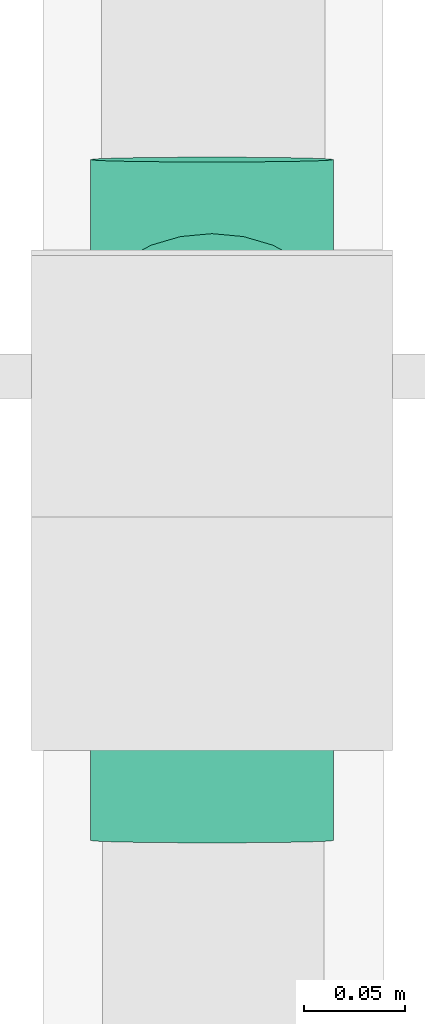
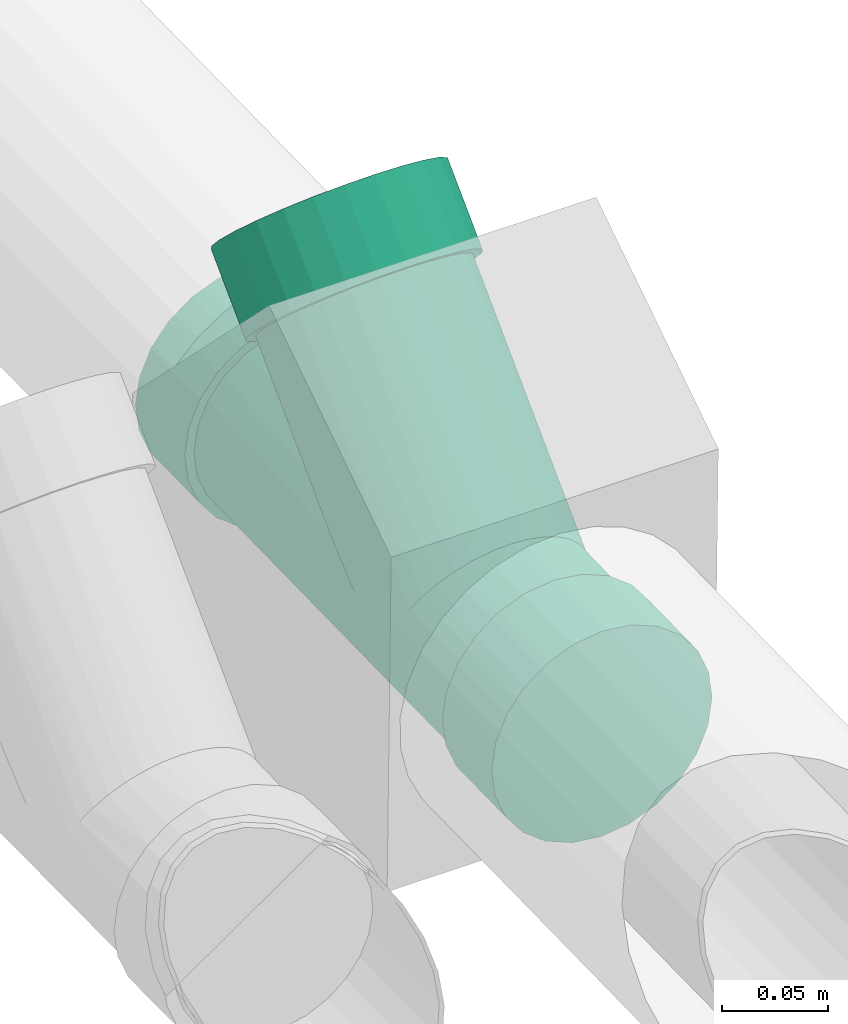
# One storey, part 73 of 78: 1 flow fitting.
"""IFC2X3 building model written with IfcOpenShell, lengths in millimetres."""

from ifc_helpers import new_model, entity, si_unit, converted_unit, derived_unit, direction, frame, origin_with_axes, place, context, subcontext, project, spatial, open_shell, surface_model, source, transform, mapped, type_object, element, save


model = new_model("IFC2X3")

# Units and contexts
model_context = context("Model", 3, precision=0.01, world=frame((0.0, 4.29681676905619e-09, 0.0)), true_north=direction((4.01073788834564e-13, 1.0)))
plan_context = context("Plan", 3, precision=0.01, world=frame((0.0, 4.29681676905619e-09, 0.0)), true_north=direction((4.01073788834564e-13, 1.0)))
body_context = subcontext(model_context, "Body", "Model", "MODEL_VIEW")
ifc_project = project(units=[converted_unit("PLANEANGLEUNIT", "DEGREE", entity("IfcPositiveLengthMeasure", 0.0174532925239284), si_unit("PLANEANGLEUNIT", "RADIAN"), dimensions=[0, 0, 0, 0, 0, 0, 0]), si_unit("AREAUNIT", "SQUARE_METRE"), si_unit("LENGTHUNIT", "METRE", prefix="MILLI"), si_unit("MASSUNIT", "GRAM", prefix="KILO"), si_unit("POWERUNIT", "WATT"), si_unit("PRESSUREUNIT", "PASCAL"), si_unit("FORCEUNIT", "NEWTON", prefix="KILO"), si_unit("ELECTRICVOLTAGEUNIT", "VOLT"), si_unit("ELECTRICCURRENTUNIT", "AMPERE"), si_unit("THERMODYNAMICTEMPERATUREUNIT", "DEGREE_CELSIUS"), si_unit("TIMEUNIT", "SECOND"), si_unit("VOLUMEUNIT", "CUBIC_METRE"), derived_unit("LINEARVELOCITYUNIT", [(si_unit("LENGTHUNIT", "METRE"), 1), (si_unit("TIMEUNIT", "SECOND"), -1)]), derived_unit("VOLUMETRICFLOWRATEUNIT", [(si_unit("VOLUMEUNIT", "CUBIC_METRE"), 1), (si_unit("TIMEUNIT", "SECOND"), -1)]), derived_unit("THERMALTRANSMITTANCEUNIT", [(si_unit("POWERUNIT", "WATT"), 1), (si_unit("THERMODYNAMICTEMPERATUREUNIT", "KELVIN"), -1), (si_unit("AREAUNIT", "SQUARE_METRE"), -1)]), derived_unit("SOUNDPRESSUREUNIT", [(si_unit("PRESSUREUNIT", "PASCAL"), 1)])], contexts=[model_context, plan_context])

# Site, building, storey
site_placement = place(None, frame((0.0, -4.29681676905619e-09, 0.0), z_axis=(0.0, 0.0, 1.0), x_axis=(1.0, 0.0, 0.0)))
site = spatial("IfcSite", under=ifc_project, at=site_placement, Name="ENGM", CompositionType="ELEMENT")
building_placement = place(site_placement, frame((0.0, 4.29681676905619e-09, 0.0), z_axis=(0.0, 0.0, 1.0), x_axis=(1.0, 0.0, 0.0)))
building = spatial("IfcBuilding", under=site, at=building_placement, Name="TH", CompositionType="ELEMENT")
storey_placement = place(building_placement, frame((0.0, 0.0, 205200.0), z_axis=(0.0, 0.0, 1.0), x_axis=(1.0, 0.0, 0.0)))
storey = spatial("IfcBuildingStorey", under=building, at=storey_placement, Name="Nivå D + 1,2 m", CompositionType="ELEMENT", Elevation=205200.0)

# Flow fitting
pipe_fitting_type = type_object("IfcPipeFittingType", Name="magi_sewer_tee_wye_NOR", PredefinedType="JUNCTION")
shared_shape = source(origin_with_axes(), body_context, "Body", "SurfaceModel", [
    surface_model("IfcShellBasedSurfaceModel", [(226.15751, 30.0, -51.96152), (226.15751, -42.42641, -42.42641), (226.15751, 15.52914, -57.95555), (226.15751, 51.96152, -30.0), (226.15751, 42.42641, -42.42641), (226.15751, 57.95555, -15.52914), (226.15751, 60.0, 0.0), (226.15751, 0.0, -60.0), (226.15751, -30.0, -51.96152), (226.15751, -15.52914, -57.95555), (226.15751, 57.95555, 15.52914), (226.15751, -51.96152, -30.0), (226.15751, -60.0, 0.0), (226.15751, -57.95555, -15.52914), (226.15751, 51.96152, 30.0), (226.15751, 42.42641, 42.42641), (226.15751, 15.52914, 57.95555), (226.15751, 0.0, 60.0), (226.15751, 30.0, 51.96152), (226.15751, -51.96152, 30.0), (226.15751, -57.95555, 15.52914), (226.15751, -30.0, 51.96152), (226.15751, -42.42641, 42.42641), (226.15751, -15.52914, 57.95555), (179.65751, 42.42641, 42.42641), (179.65751, 0.0, 60.0), (179.65751, 15.52914, 57.95555), (179.65751, 30.0, 51.96152), (179.65751, 51.96152, 30.0), (179.65751, 57.95555, 15.52914), (179.65751, -60.0, 0.0), (179.65751, -30.0, 51.96152), (179.65751, -51.96152, 30.0), (179.65751, -42.42641, 42.42641), (179.65751, -15.52914, 57.95555), (179.65751, -57.95555, 15.52914), (179.65751, -51.96152, -30.0), (179.65751, -42.42641, -42.42641), (179.65751, 57.95555, -15.52914), (179.65751, 42.42641, -42.42641), (179.65751, 51.96152, -30.0), (179.65751, 30.0, -51.96152), (179.65751, 15.52914, -57.95555), (179.65751, -57.95555, -15.52914), (179.65751, -30.0, -51.96152), (179.65751, 0.0, -60.0), (179.65751, -15.52914, -57.95555), (179.65751, 60.0, 0.0), (137.33687, -90.34827, -51.96152), (127.31108, -100.78327, -57.95555), (116.55208, -111.98141, -60.0), (152.55239, -74.51171, -30.0), (76.39896, -153.77343, -15.52914), (145.94621, -81.38753, -42.42641), (80.55178, -149.45112, 30.0), (95.7673, -133.61456, -51.96152), (87.15796, -142.57529, -42.42641), (105.79309, -123.17955, -57.95555), (80.55178, -149.45112, -30.0), (74.98251, -155.2477, 0.0), (76.39896, -153.77343, 15.52914), (156.70521, -70.18939, -15.52914), (158.12165, -68.71513, 0.0), (152.55239, -74.51171, 30.0), (156.70521, -70.18939, 15.52914), (127.31108, -100.78327, 57.95555), (137.33687, -90.34827, 51.96152), (145.94621, -81.38753, 42.42641), (87.15796, -142.57529, 42.42641), (95.7673, -133.61456, 51.96152), (105.79309, -123.17955, 57.95555), (116.55208, -111.98141, 60.0), (150.08345, -144.19782, -60.0), (160.84245, -132.99969, -57.95555), (170.86824, -122.56468, -51.96152), (109.93034, -185.98985, -15.52914), (114.08315, -181.66753, 30.0), (186.08375, -106.72812, -30.0), (179.47758, -113.60394, -42.42641), (139.32445, -155.39597, -57.95555), (120.68933, -174.79171, -42.42641), (129.29867, -165.83096, -51.96152), (114.08315, -181.66753, -30.0), (109.93034, -185.98985, 15.52914), (108.51389, -187.4641, 0.0), (190.23657, -102.4058, -15.52914), (191.65302, -100.93154, 0.0), (190.23657, -102.4058, 15.52914), (170.86824, -122.56468, 51.96152), (186.08375, -106.72812, 30.0), (160.84245, -132.99969, 57.95555), (179.47758, -113.60394, 42.42641), (129.29867, -165.83096, 51.96152), (120.68933, -174.79171, 42.42641), (150.08345, -144.19782, 60.0), (139.32445, -155.39597, 57.95555), (-109.60544, -30.0, -51.96152), (-109.60544, 42.42641, -42.42641), (-109.60544, -15.52914, -57.95555), (-109.60544, -51.96152, -30.0), (-109.60544, -42.42641, -42.42641), (-109.60544, -57.95555, -15.52914), (-109.60544, -60.0, 0.0), (-109.60544, 0.0, -60.0), (-109.60544, 30.0, -51.96152), (-109.60544, 15.52914, -57.95555), (-109.60544, -57.95555, 15.52914), (-109.60544, 51.96152, -30.0), (-109.60544, 60.0, 0.0), (-109.60544, 57.95555, -15.52914), (-109.60544, -51.96152, 30.0), (-109.60544, -42.42641, 42.42641), (-109.60544, -15.52914, 57.95555), (-109.60544, 0.0, 60.0), (-109.60544, -30.0, 51.96152), (-109.60544, 51.96152, 30.0), (-109.60544, 57.95555, 15.52914), (-109.60544, 30.0, 51.96152), (-109.60544, 42.42641, 42.42641), (-109.60544, 15.52914, 57.95555), (-63.10544, -42.42641, 42.42641), (-63.10544, 0.0, 60.0), (-63.10544, -15.52914, 57.95555), (-63.10544, -30.0, 51.96152), (-63.10544, -51.96152, 30.0), (-63.10544, -57.95555, 15.52914), (-63.10544, 60.0, 0.0), (-63.10544, 30.0, 51.96152), (-63.10544, 51.96152, 30.0), (-63.10544, 42.42641, 42.42641), (-63.10544, 15.52914, 57.95555), (-63.10544, 57.95555, 15.52914), (-63.10544, 51.96152, -30.0), (-63.10544, 42.42641, -42.42641), (-63.10544, -57.95555, -15.52914), (-63.10544, -42.42641, -42.42641), (-63.10544, -51.96152, -30.0), (-63.10544, -30.0, -51.96152), (-63.10544, -15.52914, -57.95555), (-63.10544, 57.95555, -15.52914), (-63.10544, 30.0, -51.96152), (-63.10544, 0.0, -60.0), (-63.10544, 15.52914, -57.95555), (-63.10544, -60.0, 0.0), (179.65751, 27.5, -47.63139), (179.65751, 0.0, -55.0), (179.65751, 14.23505, -53.12592), (179.65751, 38.89087, -38.89087), (179.65751, -27.5, -47.63139), (179.65751, 47.63139, -27.5), (179.65751, 53.12592, -14.23505), (179.65751, 55.0, 0.0), (179.65751, -14.23505, -53.12592), (179.65751, -47.63139, -27.5), (179.65751, -38.89087, -38.89087), (179.65751, -55.0, 0.0), (179.65751, -53.12592, -14.23505), (179.65751, 53.12592, 14.23505), (179.65751, 47.63139, 27.5), (179.65751, 27.5, 47.63139), (179.65751, 38.89087, 38.89087), (179.65751, 14.23505, 53.12592), (179.65751, 0.0, 55.0), (179.65751, -47.63139, 27.5), (179.65751, -53.12592, 14.23505), (179.65751, -27.5, 47.63139), (179.65751, -38.89087, 38.89087), (179.65751, -14.23505, 53.12592), (-63.10544, 0.0, 55.0), (-63.10544, 14.23505, 53.12592), (-63.10544, 27.5, 47.63139), (-63.10544, -47.63139, 27.5), (-63.10544, 27.5, -47.63139), (-63.10544, 47.63139, 27.5), (-63.10544, 38.89087, 38.89087), (-63.10544, -27.5, 47.63139), (-63.10544, -14.23505, 53.12592), (-63.10544, -38.89087, 38.89087), (-63.10544, -55.0, 0.0), (-63.10544, -53.12592, 14.23505), (-63.10544, -47.63139, -27.5), (-63.10544, 53.12592, -14.23505), (-63.10544, 53.12592, 14.23505), (-63.10544, 47.63139, -27.5), (-63.10544, -27.5, -47.63139), (-63.10544, 38.89087, -38.89087), (-63.10544, 0.0, -55.0), (-63.10544, 14.23505, -53.12592), (-63.10544, -38.89087, -38.89087), (-63.10544, -53.12592, -14.23505), (-63.10544, -14.23505, -53.12592), (-63.10544, 55.0, 0.0), (-21.2417, -52.7682, -14.6956), (-63.10544, -53.59444, -10.67629), (-63.10544, -20.86752, -50.37866), (-7.32376, -18.19353, -51.90371), (-9.04063, -22.45856, -49.98751), (-63.10544, -54.53148, -3.55876), (-63.10544, -54.06296, -7.11752), (-21.95849, -54.54883, -4.96092), (-21.77687, -54.09766, -9.92184), (-19.84491, -49.29834, -23.88679), (-63.10544, -49.00503, -24.18376), (-18.9833, -47.15793, -28.30423), (-16.68691, -41.45328, -36.14727), (-63.10544, -43.26114, -33.19544), (-63.10544, -33.19544, -43.26114), (-10.75751, -26.7236, -48.07129), (-3.70691, -9.20863, -54.22362), (-63.10544, -7.11752, -54.06296), (-17.8351, -44.30561, -32.22575), (-15.2993, -38.00623, -39.46676), (133.90353, -53.90251, -7.6914), (179.65751, -54.06296, -7.11752), (-13.9117, -34.55917, -42.78626), (-20.70653, -51.43874, -19.46936), (-63.10544, -50.37866, -20.86752), (119.67629, -48.17537, -26.53552), (179.65751, -50.37866, -20.86752), (131.17716, -52.80501, -15.3828), (136.6299, -55.0, 0.0), (106.12276, -42.71943, -34.64174), (179.65751, -43.26114, -33.19544), (-22.1401, -55.0, 0.0), (76.82477, -30.92561, -45.48194), (61.68155, -24.82974, -49.07631), (91.70126, -36.9141, -40.77192), (125.42672, -50.49019, -20.95916), (0.0, 0.0, -55.0), (-5.51533, -13.70108, -53.06367), (30.96629, -12.4654, -53.56878), (15.49696, -6.23826, -54.64507), (46.37603, -18.66855, -51.73476), (-17.8351, -44.30561, 32.22575), (-63.10544, -43.26114, 33.19544), (-19.84491, -49.29834, 23.88679), (-63.10544, -49.00503, 24.18376), (-63.10544, -7.11752, 54.06296), (-3.70691, -9.20863, 54.22362), (0.0, 0.0, 55.0), (-5.51533, -13.70108, 53.06367), (-7.32376, -18.19353, 51.90371), (-63.10544, -20.86752, 50.37866), (-10.75751, -26.7236, 48.07129), (-9.04063, -22.45856, 49.98751), (119.67629, -48.17537, 26.53552), (179.65751, -43.26114, 33.19544), (105.68878, -42.54473, 33.65372), (-21.95849, -54.54883, 4.96092), (-63.10544, -54.06296, 7.11752), (-63.10544, -54.53148, 3.55876), (-63.10544, -50.37866, 20.86752), (-20.70653, -51.43874, 19.46936), (30.96629, -12.4654, 53.56878), (61.68155, -24.82974, 49.07631), (-63.10544, -33.19544, 43.26114), (-13.9117, -34.55917, 42.78626), (-18.9833, -47.15793, 28.30423), (-16.68691, -41.45328, 36.14727), (-15.2993, -38.00623, 39.46676), (-21.2417, -52.7682, 14.6956), (-63.10544, -53.59444, 10.67629), (-21.77687, -54.09766, 9.92184), (91.70126, -36.9141, 40.77192), (128.1531, -51.58769, 13.26776), (149.55235, -77.63419, -27.5), (116.55208, -111.98141, -55.0), (126.41449, -101.71645, -53.12592), (135.6048, -92.15103, -47.63139), (78.44665, -151.64217, 0.0), (143.49669, -83.93702, -38.89087), (135.6048, -92.15103, 47.63139), (106.68967, -122.24637, -53.12592), (89.60747, -140.0258, -38.89087), (97.49936, -131.81179, -47.63139), (79.74506, -150.29076, -14.23505), (83.5518, -146.32863, -27.5), (153.3591, -73.67206, -14.23505), (153.3591, -73.67206, 14.23505), (143.49669, -83.93702, 38.89087), (149.55235, -77.63419, 27.5), (97.49936, -131.81179, 47.63139), (116.55208, -111.98141, 55.0), (126.41449, -101.71645, 53.12592), (79.74506, -150.29076, 14.23505), (89.60747, -140.0258, 38.89087), (83.5518, -146.32863, 27.5), (106.68967, -122.24637, 53.12592), (154.65751, -72.32065, 0.0), (146.52452, -80.7856, 33.19544), (154.00831, -72.99636, -7.11752), (151.45573, -75.65312, -20.86752), (146.52452, -80.7856, -33.19544)], [open_shell([[[0, 1, 2]], [[3, 0, 4]], [[5, 6, 0]], [[5, 0, 3]], [[1, 0, 6]], [[7, 8, 9]], [[8, 7, 1]], [[2, 1, 7]], [[1, 10, 11]], [[11, 12, 13]], [[10, 1, 6]], [[10, 14, 15]], [[12, 10, 15]], [[16, 17, 15]], [[16, 15, 18]], [[19, 15, 17]], [[12, 19, 20]], [[12, 15, 19]], [[19, 21, 22]], [[19, 17, 21]], [[23, 21, 17]], [[10, 12, 11]], [[24, 25, 26]], [[24, 26, 27]], [[24, 28, 29]], [[25, 24, 30]], [[30, 24, 29]], [[31, 32, 33]], [[31, 34, 25]], [[32, 30, 35]], [[31, 25, 32]], [[25, 30, 32]], [[29, 36, 30]], [[37, 29, 38]], [[39, 38, 40]], [[41, 42, 38]], [[41, 38, 39]], [[37, 38, 42]], [[37, 36, 29]], [[43, 30, 36]], [[44, 45, 46]], [[45, 44, 37]], [[45, 37, 42]], [[47, 38, 29]], [[43, 13, 30]], [[36, 11, 43]], [[8, 37, 44]], [[36, 37, 1]], [[9, 44, 46]], [[43, 11, 13]], [[13, 12, 30]], [[9, 8, 44]], [[1, 37, 8]], [[1, 11, 36]], [[7, 9, 46]], [[46, 45, 7]], [[2, 42, 41]], [[39, 0, 41]], [[3, 40, 38]], [[39, 40, 4]], [[5, 38, 47]], [[42, 2, 45]], [[41, 0, 2]], [[45, 2, 7]], [[39, 4, 0]], [[40, 3, 4]], [[5, 3, 38]], [[47, 6, 5]], [[29, 10, 47]], [[28, 14, 29]], [[18, 24, 27]], [[28, 24, 15]], [[16, 27, 26]], [[29, 14, 10]], [[10, 6, 47]], [[18, 27, 16]], [[15, 24, 18]], [[15, 14, 28]], [[16, 25, 17]], [[16, 26, 25]], [[23, 34, 31]], [[33, 21, 31]], [[19, 32, 35]], [[33, 32, 22]], [[20, 35, 30]], [[34, 23, 25]], [[31, 21, 23]], [[25, 23, 17]], [[33, 22, 21]], [[32, 19, 22]], [[20, 19, 35]], [[30, 12, 20]], [[48, 49, 50]], [[51, 48, 50]], [[52, 51, 50]], [[53, 48, 51]], [[51, 52, 54]], [[55, 56, 57]], [[56, 50, 57]], [[58, 52, 56]], [[56, 52, 50]], [[59, 60, 52]], [[61, 51, 62]], [[63, 64, 62]], [[65, 63, 62]], [[63, 65, 66]], [[67, 63, 66]], [[54, 65, 62]], [[68, 69, 54]], [[54, 52, 60]], [[69, 70, 54]], [[71, 54, 70]], [[54, 71, 65]], [[62, 51, 54]], [[72, 73, 74]], [[75, 72, 74]], [[76, 75, 74]], [[77, 74, 78]], [[74, 77, 76]], [[79, 80, 81]], [[79, 72, 80]], [[80, 75, 82]], [[72, 75, 80]], [[75, 83, 84]], [[77, 85, 86]], [[77, 87, 76]], [[88, 87, 89]], [[88, 90, 87]], [[88, 89, 91]], [[76, 87, 90]], [[76, 92, 93]], [[83, 75, 76]], [[92, 94, 95]], [[92, 76, 90]], [[94, 92, 90]], [[87, 77, 86]], [[83, 59, 84]], [[76, 60, 83]], [[68, 93, 92]], [[76, 93, 54]], [[69, 92, 95]], [[76, 54, 60]], [[60, 59, 83]], [[70, 94, 71]], [[70, 69, 95]], [[68, 92, 69]], [[68, 54, 93]], [[94, 70, 95]], [[66, 90, 88]], [[91, 67, 88]], [[64, 89, 87]], [[91, 89, 63]], [[62, 87, 86]], [[90, 65, 71]], [[90, 66, 65]], [[88, 67, 66]], [[91, 63, 67]], [[64, 63, 89]], [[87, 62, 64]], [[90, 71, 94]], [[85, 62, 86]], [[77, 61, 85]], [[53, 78, 74]], [[77, 78, 51]], [[48, 74, 73]], [[77, 51, 61]], [[61, 62, 85]], [[49, 72, 50]], [[49, 48, 73]], [[53, 74, 48]], [[53, 51, 78]], [[72, 49, 73]], [[55, 79, 81]], [[80, 56, 81]], [[52, 82, 75]], [[80, 82, 58]], [[59, 75, 84]], [[57, 50, 79]], [[57, 79, 55]], [[81, 56, 55]], [[80, 58, 56]], [[52, 58, 82]], [[75, 59, 52]], [[79, 50, 72]], [[96, 97, 98]], [[99, 96, 100]], [[101, 102, 96]], [[101, 96, 99]], [[97, 96, 102]], [[103, 104, 105]], [[104, 103, 97]], [[98, 97, 103]], [[97, 106, 107]], [[107, 108, 109]], [[106, 97, 102]], [[106, 110, 111]], [[108, 106, 111]], [[112, 113, 111]], [[112, 111, 114]], [[115, 111, 113]], [[108, 115, 116]], [[108, 111, 115]], [[115, 117, 118]], [[115, 113, 117]], [[119, 117, 113]], [[106, 108, 107]], [[120, 121, 122]], [[120, 122, 123]], [[120, 124, 125]], [[121, 120, 126]], [[126, 120, 125]], [[127, 128, 129]], [[127, 130, 121]], [[128, 126, 131]], [[127, 121, 128]], [[121, 126, 128]], [[125, 132, 126]], [[133, 125, 134]], [[135, 134, 136]], [[137, 138, 134]], [[137, 134, 135]], [[133, 134, 138]], [[133, 132, 125]], [[139, 126, 132]], [[140, 141, 142]], [[141, 140, 133]], [[141, 133, 138]], [[143, 134, 125]], [[139, 109, 126]], [[132, 107, 139]], [[104, 133, 140]], [[132, 133, 97]], [[105, 140, 142]], [[139, 107, 109]], [[109, 108, 126]], [[105, 104, 140]], [[97, 133, 104]], [[97, 107, 132]], [[103, 105, 142]], [[142, 141, 103]], [[98, 138, 137]], [[135, 96, 137]], [[99, 136, 134]], [[135, 136, 100]], [[101, 134, 143]], [[138, 98, 141]], [[137, 96, 98]], [[141, 98, 103]], [[135, 100, 96]], [[136, 99, 100]], [[101, 99, 134]], [[143, 102, 101]], [[125, 106, 143]], [[124, 110, 125]], [[114, 120, 123]], [[124, 120, 111]], [[112, 123, 122]], [[125, 110, 106]], [[106, 102, 143]], [[114, 123, 112]], [[111, 120, 114]], [[111, 110, 124]], [[112, 121, 113]], [[112, 122, 121]], [[119, 130, 127]], [[129, 117, 127]], [[115, 128, 131]], [[129, 128, 118]], [[116, 131, 126]], [[130, 119, 121]], [[127, 117, 119]], [[121, 119, 113]], [[129, 118, 117]], [[128, 115, 118]], [[116, 115, 131]], [[126, 108, 116]], [[144, 145, 146]], [[147, 148, 144]], [[148, 149, 150]], [[147, 149, 148]], [[151, 148, 150]], [[145, 148, 152]], [[145, 144, 148]], [[148, 153, 154]], [[148, 151, 153]], [[155, 156, 153]], [[153, 151, 157]], [[158, 155, 157]], [[159, 158, 160]], [[159, 161, 162]], [[158, 159, 155]], [[162, 163, 159]], [[155, 163, 164]], [[155, 159, 163]], [[162, 165, 166]], [[166, 163, 162]], [[165, 162, 167]], [[157, 155, 153]], [[168, 169, 170]], [[171, 168, 170]], [[172, 171, 170]], [[173, 170, 174]], [[173, 172, 170]], [[168, 175, 176]], [[168, 177, 175]], [[171, 178, 179]], [[177, 168, 171]], [[171, 180, 178]], [[181, 173, 182]], [[181, 183, 173]], [[173, 183, 172]], [[171, 172, 184]], [[172, 183, 185]], [[186, 172, 187]], [[180, 184, 188]], [[189, 178, 180]], [[184, 186, 190]], [[171, 184, 180]], [[172, 186, 184]], [[182, 191, 181]], [[189, 192, 193]], [[194, 195, 196]], [[197, 198, 199]], [[200, 193, 192]], [[180, 201, 202]], [[203, 201, 180]], [[204, 205, 188]], [[206, 184, 207]], [[208, 190, 209]], [[180, 205, 210]], [[211, 204, 188]], [[212, 156, 213]], [[207, 214, 206]], [[201, 215, 216]], [[214, 188, 206]], [[198, 200, 199]], [[205, 204, 210]], [[217, 153, 218]], [[212, 219, 156]], [[213, 220, 212]], [[156, 219, 218]], [[201, 216, 202]], [[221, 222, 217]], [[223, 197, 199]], [[180, 210, 203]], [[184, 196, 207]], [[148, 224, 225]], [[226, 224, 148]], [[226, 154, 221]], [[154, 226, 148]], [[222, 153, 217]], [[197, 223, 178]], [[200, 198, 193]], [[215, 189, 216]], [[196, 184, 194]], [[218, 219, 227]], [[186, 228, 209]], [[220, 213, 155]], [[229, 195, 190]], [[208, 209, 228]], [[221, 154, 222]], [[186, 187, 228]], [[189, 215, 192]], [[147, 185, 183]], [[149, 183, 181]], [[146, 187, 172]], [[144, 172, 185]], [[146, 228, 187]], [[150, 181, 191]], [[190, 208, 229]], [[188, 214, 211]], [[230, 231, 152]], [[232, 230, 152]], [[232, 152, 225]], [[152, 231, 145]], [[225, 152, 148]], [[228, 145, 231]], [[217, 218, 227]], [[146, 145, 228]], [[144, 146, 172]], [[144, 185, 147]], [[149, 147, 183]], [[150, 149, 181]], [[191, 151, 150]], [[195, 194, 190]], [[174, 158, 173]], [[171, 233, 234]], [[235, 171, 236]], [[173, 158, 182]], [[157, 191, 182]], [[160, 174, 170]], [[237, 176, 238]], [[169, 168, 239]], [[238, 176, 240]], [[241, 176, 242]], [[170, 169, 159]], [[243, 244, 175]], [[237, 239, 168]], [[245, 246, 247]], [[160, 158, 174]], [[248, 249, 250]], [[251, 252, 235]], [[159, 160, 170]], [[157, 182, 158]], [[151, 191, 157]], [[239, 237, 238]], [[239, 253, 162]], [[239, 162, 161]], [[162, 253, 167]], [[167, 253, 254]], [[161, 159, 169]], [[239, 161, 169]], [[243, 255, 256]], [[257, 233, 171]], [[255, 177, 256]], [[234, 233, 258]], [[176, 241, 240]], [[256, 177, 259]], [[235, 236, 251]], [[248, 250, 223]], [[260, 261, 262]], [[260, 252, 179]], [[262, 249, 248]], [[166, 263, 247]], [[223, 250, 178]], [[179, 252, 251]], [[175, 244, 242]], [[171, 235, 257]], [[243, 175, 255]], [[254, 263, 165]], [[262, 261, 249]], [[165, 263, 166]], [[254, 165, 167]], [[261, 260, 179]], [[258, 177, 234]], [[166, 247, 246]], [[246, 245, 163]], [[177, 258, 259]], [[164, 245, 264]], [[245, 164, 163]], [[264, 155, 164]], [[264, 220, 155]], [[241, 242, 244]], [[265, 266, 267]], [[265, 267, 268]], [[266, 265, 269]], [[265, 268, 270]], [[271, 269, 265]], [[272, 273, 274]], [[273, 272, 269]], [[273, 275, 276]], [[275, 273, 269]], [[272, 266, 269]], [[265, 277, 278]], [[265, 278, 271]], [[279, 278, 280]], [[271, 281, 269]], [[271, 278, 279]], [[282, 271, 283]], [[284, 285, 286]], [[284, 269, 285]], [[281, 282, 287]], [[269, 281, 285]], [[271, 282, 281]], [[278, 277, 288]], [[262, 223, 269]], [[284, 262, 269]], [[285, 281, 256]], [[258, 286, 285]], [[252, 284, 286]], [[241, 281, 287]], [[245, 289, 280]], [[252, 262, 284]], [[257, 252, 286]], [[247, 279, 289]], [[256, 258, 285]], [[241, 243, 281]], [[256, 281, 243]], [[257, 286, 258]], [[288, 264, 278]], [[287, 238, 241]], [[253, 282, 283]], [[271, 254, 283]], [[280, 278, 245]], [[289, 245, 247]], [[263, 271, 279]], [[264, 288, 220]], [[282, 239, 238]], [[282, 253, 239]], [[264, 245, 278]], [[253, 283, 254]], [[247, 263, 279]], [[271, 263, 254]], [[282, 238, 287]], [[277, 212, 290]], [[219, 277, 291]], [[288, 290, 220]], [[265, 217, 291]], [[270, 268, 226]], [[221, 292, 270]], [[291, 227, 219]], [[225, 268, 267]], [[291, 217, 227]], [[217, 265, 292]], [[224, 226, 268]], [[221, 270, 226]], [[232, 225, 267]], [[266, 231, 230]], [[232, 267, 230]], [[224, 268, 225]], [[217, 292, 221]], [[230, 267, 266]], [[274, 195, 272]], [[272, 208, 266]], [[214, 274, 273]], [[200, 275, 269]], [[273, 276, 204]], [[275, 215, 276]], [[269, 223, 200]], [[207, 195, 274]], [[208, 228, 266]], [[195, 208, 272]], [[277, 219, 212]], [[200, 215, 275]], [[220, 290, 212]], [[204, 214, 273]], [[203, 204, 276]], [[215, 203, 276]], [[207, 274, 214]], [[266, 228, 231]]])]),
])
flow_fitting_placement = place(storey_placement, frame((903320.3848, 481897.17242, 4353.40533000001), z_axis=(-1.0, 0.0, 0.0), x_axis=(0.0, 0.999800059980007, 0.0199960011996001)))
element("IfcFlowFitting", 1, at=flow_fitting_placement, inside=storey, type_object=pipe_fitting_type, Name="magi_sewer_tee_wye_NOR", context=body_context, shape_type="MappedRepresentation", body=[
    mapped(shared_shape, transform((0.0, 0.0, 0.0), scale=1.0)),
])

save(model, "model.ifc")
